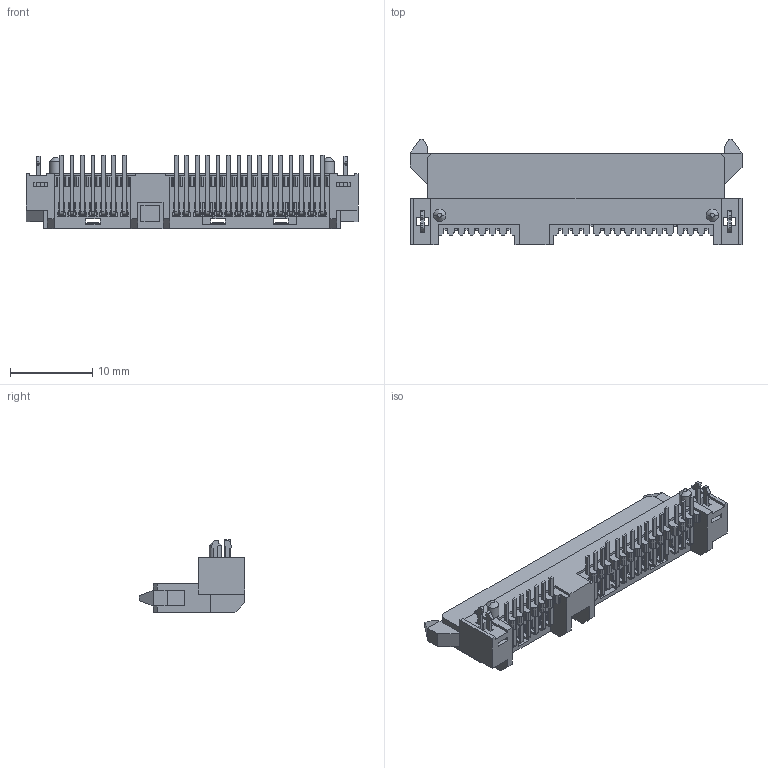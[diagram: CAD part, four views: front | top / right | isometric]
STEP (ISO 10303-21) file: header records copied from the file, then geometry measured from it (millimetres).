
FILE_DESCRIPTION((''),'2;1');
FILE_NAME('WATB-22DL1P5U_ASM_1_','2012-11-08T',('jarry'),(''),'PRO/ENGINEER BY PARAMETRIC TECHNOLOGY CORPORATION, 2008230','PRO/ENGINEER BY PARAMETRIC TECHNOLOGY CORPORATION, 2008230','');
FILE_SCHEMA(('CONFIG_CONTROL_DESIGN'));
Products named in the file (1): WATB-22DL1P5U_ASM_1_
Bounding box: 40.43 x 12.85 x 8.9 mm (x, y, z)
Volume: 1191.8 mm3; surface area: 3339.5 mm2
Topology: 1 solids, 1 shells, 2420 faces, 7562 edges, 5011 vertices
Faces by surface type: plane 1655, cylinder 717, sphere 44, cone 4
Entity records: 84846 total; most frequent: CARTESIAN_POINT 17231, ORIENTED_EDGE 15080, DIRECTION 13130, EDGE_CURVE 7540, VECTOR 5682, LINE 5682, VERTEX_POINT 5011, AXIS2_PLACEMENT_3D 3724
